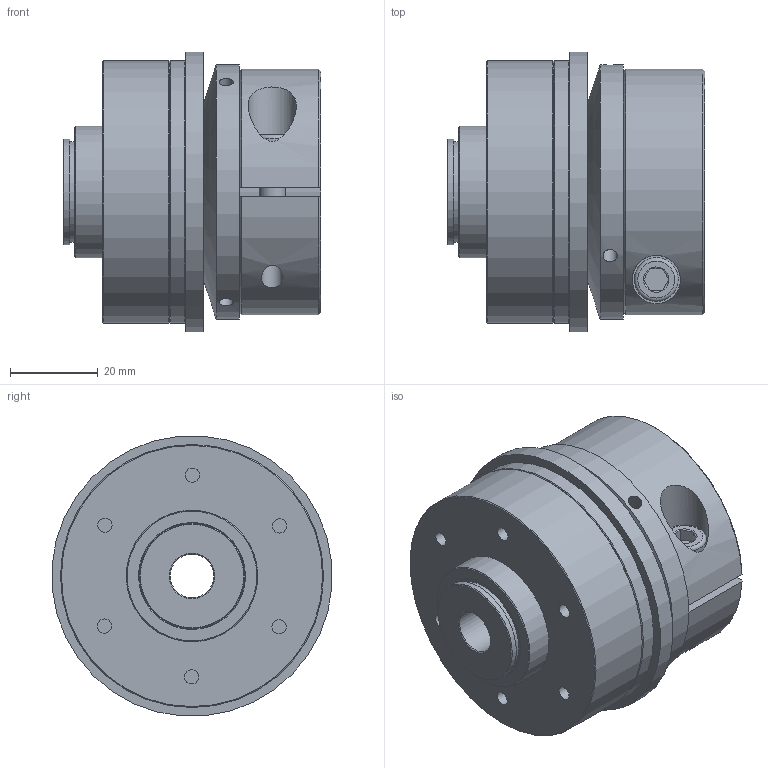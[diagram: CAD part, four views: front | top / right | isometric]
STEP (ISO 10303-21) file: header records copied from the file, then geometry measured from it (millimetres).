
FILE_DESCRIPTION( ( 'Unknown' ), '1' );
FILE_NAME( 'C:/Users/TWalzel/Documents/CAD-Daten/KBK-CK/30/KBK CK-30.stp', 'Unknown', ( 'Unknown' ), ( 'Unknown' ), 'PSStep 16.0.42', 'Unknown', ' ' );
FILE_SCHEMA( ( 'AUTOMOTIVE_DESIGN { 1 0 10303 214 1 1 1 1 }' ) );
Length unit declared in the file: millimetre
Products named in the file (10): Klemmnabe 30; Stellring 30; Druckring 30; Assem1; Flansch-Gleitlager CK-30; Grundkörper CK-30_1; ISO EN DIN 4762 M6x20
Assembly tree (9 placements, depth 3):
  Assem1
    Flansch-Gleitlager CK-30
    Grundkörper CK-30_1
    ISO EN DIN 4762 M6x20
    Stellring 30
      Stellring 30
    Druckring 30
      Druckring 30
    Klemmnabe 30
      Klemmnabe 30
Bounding box: 58.8 x 63.81 x 63.81 mm (x, y, z)
Volume: 128402.9 mm3; surface area: 44278.8 mm2
Topology: 6 solids, 6 shells, 114 faces, 233 edges, 146 vertices
Faces by surface type: plane 43, cylinder 42, cone 25, torus 4
Full cylindrical faces by diameter (mm): 3.242 x15, 4.917 x1, 5 x1, 6 x2, 6.4 x1, 10 x2, 11 x1, 23 x1, 24 x3, 30 x2, 38 x3, 40 x1, 52 x1, 58 x1, 60 x2, 64 x1
Entity records: 4186 total; most frequent: CARTESIAN_POINT 927, DIRECTION 492, ORIENTED_EDGE 326, AXIS2_PLACEMENT_3D 224, EDGE_LOOP 204, EDGE_CURVE 163, FACE_OUTER_BOUND 156, VERTEX_POINT 133
